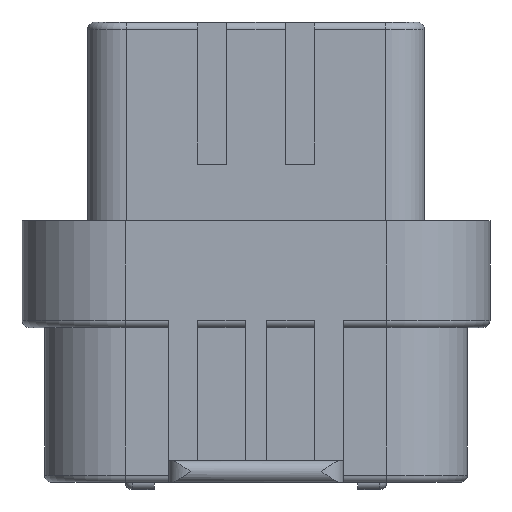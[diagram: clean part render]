
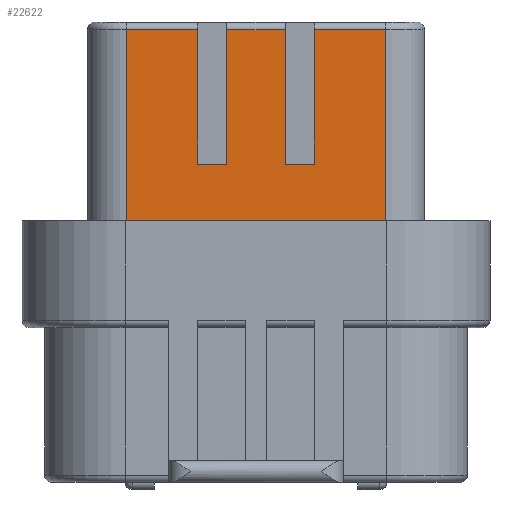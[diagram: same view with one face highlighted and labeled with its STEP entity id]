
A CAD part, front view. The second image highlights one B-rep face of the part: STEP entity #22622.
In plain terms, the highlighted planar face has unit normal (0, -1, 0).
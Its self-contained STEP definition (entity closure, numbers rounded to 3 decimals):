
#8022=DIRECTION('',(1.,0.,0.));
#8023=VECTOR('',#8022,4.);
#8024=CARTESIAN_POINT('',(-2.,-9.05,13.15));
#8025=LINE('',#8024,#8023);
#8026=DIRECTION('',(1.,0.,0.));
#8027=VECTOR('',#8026,4.9);
#8028=CARTESIAN_POINT('',(-8.9,-9.05,13.15));
#8029=LINE('',#8028,#8027);
#8043=DIRECTION('',(1.,0.,0.));
#8044=VECTOR('',#8043,4.9);
#8045=CARTESIAN_POINT('',(4.,-9.05,13.15));
#8046=LINE('',#8045,#8044);
#8052=DIRECTION('',(1.,0.,0.));
#8053=VECTOR('',#8052,2.);
#8054=CARTESIAN_POINT('',(-4.,-9.05,3.9));
#8055=LINE('',#8054,#8053);
#8056=DIRECTION('',(0.,0.,-1.));
#8057=VECTOR('',#8056,9.25);
#8058=CARTESIAN_POINT('',(-2.,-9.05,13.15));
#8059=LINE('',#8058,#8057);
#8060=DIRECTION('',(0.,0.,-1.));
#8061=VECTOR('',#8060,9.25);
#8062=CARTESIAN_POINT('',(2.,-9.05,13.15));
#8063=LINE('',#8062,#8061);
#8064=DIRECTION('',(1.,0.,0.));
#8065=VECTOR('',#8064,2.);
#8066=CARTESIAN_POINT('',(2.,-9.05,3.9));
#8067=LINE('',#8066,#8065);
#8068=DIRECTION('',(0.,0.,-1.));
#8069=VECTOR('',#8068,9.25);
#8070=CARTESIAN_POINT('',(4.,-9.05,13.15));
#8071=LINE('',#8070,#8069);
#8072=DIRECTION('',(1.,0.,0.));
#8073=VECTOR('',#8072,17.8);
#8074=CARTESIAN_POINT('',(-8.9,-9.05,-0.7));
#8075=LINE('',#8074,#8073);
#8076=DIRECTION('',(0.,0.,-1.));
#8077=VECTOR('',#8076,13.85);
#8078=CARTESIAN_POINT('',(-8.9,-9.05,13.15));
#8079=LINE('',#8078,#8077);
#8080=DIRECTION('',(0.,0.,-1.));
#8081=VECTOR('',#8080,9.25);
#8082=CARTESIAN_POINT('',(-4.,-9.05,13.15));
#8083=LINE('',#8082,#8081);
#8102=DIRECTION('',(0.,0.,-1.));
#8103=VECTOR('',#8102,13.85);
#8104=CARTESIAN_POINT('',(8.9,-9.05,13.15));
#8105=LINE('',#8104,#8103);
#8674=CARTESIAN_POINT('',(-8.9,-9.05,13.15));
#8675=VERTEX_POINT('',#8674);
#8680=CARTESIAN_POINT('',(8.9,-9.05,13.15));
#8682=VERTEX_POINT('',#8680);
#9992=CARTESIAN_POINT('',(-4.,-9.05,3.9));
#9993=CARTESIAN_POINT('',(-2.,-9.05,3.9));
#9994=VERTEX_POINT('',#9992);
#9995=VERTEX_POINT('',#9993);
#9996=CARTESIAN_POINT('',(2.,-9.05,3.9));
#9997=CARTESIAN_POINT('',(4.,-9.05,3.9));
#9998=VERTEX_POINT('',#9996);
#9999=VERTEX_POINT('',#9997);
#10000=CARTESIAN_POINT('',(-2.,-9.05,13.15));
#10001=VERTEX_POINT('',#10000);
#10002=CARTESIAN_POINT('',(-4.,-9.05,13.15));
#10003=VERTEX_POINT('',#10002);
#10004=CARTESIAN_POINT('',(4.,-9.05,13.15));
#10005=VERTEX_POINT('',#10004);
#10006=CARTESIAN_POINT('',(2.,-9.05,13.15));
#10007=VERTEX_POINT('',#10006);
#10017=CARTESIAN_POINT('',(-8.9,-9.05,-0.7));
#10019=VERTEX_POINT('',#10017);
#10020=CARTESIAN_POINT('',(8.9,-9.05,-0.7));
#10021=VERTEX_POINT('',#10020);
#22599=CARTESIAN_POINT('',(-8.9,-9.05,13.65));
#22600=DIRECTION('',(0.,-1.,0.));
#22601=DIRECTION('',(1.,0.,0.));
#22602=AXIS2_PLACEMENT_3D('',#22599,#22600,#22601);
#22603=PLANE('',#22602);
#22604=ORIENTED_EDGE('',*,*,#15528,.T.);
#22605=ORIENTED_EDGE('',*,*,#22591,.F.);
#22606=ORIENTED_EDGE('',*,*,#22550,.T.);
#22608=ORIENTED_EDGE('',*,*,#22607,.T.);
#22609=ORIENTED_EDGE('',*,*,#15544,.T.);
#22611=ORIENTED_EDGE('',*,*,#22610,.F.);
#22612=ORIENTED_EDGE('',*,*,#22579,.T.);
#22614=ORIENTED_EDGE('',*,*,#22613,.T.);
#22615=ORIENTED_EDGE('',*,*,#15133,.F.);
#22616=ORIENTED_EDGE('',*,*,#15160,.F.);
#22617=ORIENTED_EDGE('',*,*,#22562,.T.);
#22619=ORIENTED_EDGE('',*,*,#22618,.T.);
#22620=EDGE_LOOP('',(#22604,#22605,#22606,#22608,#22609,#22611,#22612,#22614,
#22615,#22616,#22617,#22619));
#22621=FACE_OUTER_BOUND('',#22620,.F.);
#15133=EDGE_CURVE('',#10019,#10021,#8075,.T.);
#15160=EDGE_CURVE('',#8675,#10019,#8079,.T.);
#15528=EDGE_CURVE('',#9994,#9995,#8055,.T.);
#15544=EDGE_CURVE('',#9998,#9999,#8067,.T.);
#22550=EDGE_CURVE('',#10001,#10007,#8025,.T.);
#22562=EDGE_CURVE('',#8675,#10003,#8029,.T.);
#22579=EDGE_CURVE('',#10005,#8682,#8046,.T.);
#22591=EDGE_CURVE('',#10001,#9995,#8059,.T.);
#22607=EDGE_CURVE('',#10007,#9998,#8063,.T.);
#22610=EDGE_CURVE('',#10005,#9999,#8071,.T.);
#22613=EDGE_CURVE('',#8682,#10021,#8105,.T.);
#22618=EDGE_CURVE('',#10003,#9994,#8083,.T.);
#22622=ADVANCED_FACE('',(#22621),#22603,.T.);
